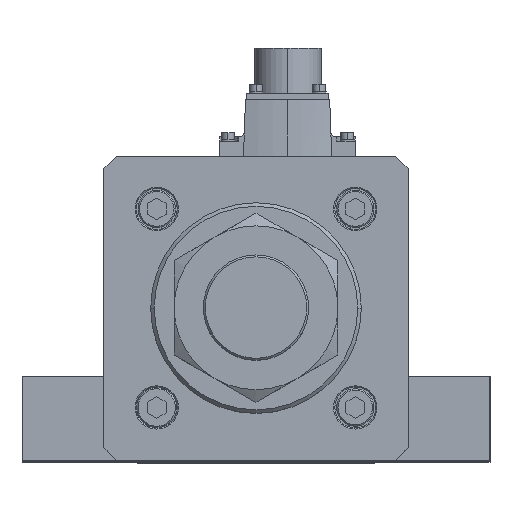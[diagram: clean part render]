
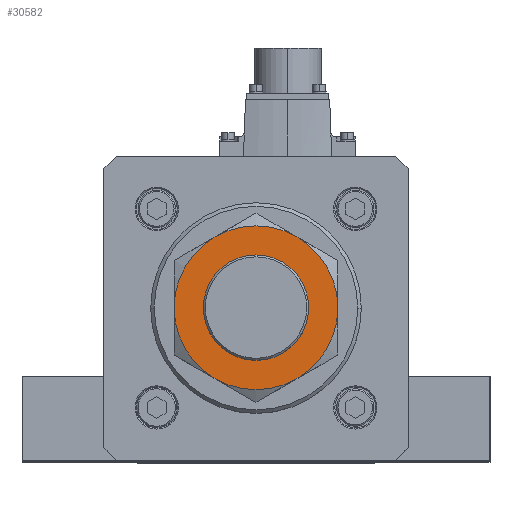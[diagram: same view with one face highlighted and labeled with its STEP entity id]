
A CAD part, top view. The second image highlights one B-rep face of the part: STEP entity #30582.
In plain terms, the highlighted planar face has unit normal (0, 0, 1).
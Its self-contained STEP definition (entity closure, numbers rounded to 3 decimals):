
#303 = AXIS2_PLACEMENT_3D ( 'NONE', #9615, #35732, #18019 ) ;
#704 = ORIENTED_EDGE ( 'NONE', *, *, #33194, .F. ) ;
#1543 = VERTEX_POINT ( 'NONE', #34641 ) ;
#1669 = ORIENTED_EDGE ( 'NONE', *, *, #29332, .F. ) ;
#2403 = EDGE_CURVE ( 'NONE', #10535, #5525, #21497, .T. ) ;
#3769 = CARTESIAN_POINT ( 'NONE',  ( 17.5, 30.311, 27. ) ) ;
#3791 = CARTESIAN_POINT ( 'NONE',  ( -17.5, 30.311, 27. ) ) ;
#4187 = DIRECTION ( 'NONE',  ( 1., 0., 0. ) ) ;
#4662 = DIRECTION ( 'NONE',  ( 0., 0., -1. ) ) ;
#5083 = CIRCLE ( 'NONE', #25607, 35. ) ;
#5118 = EDGE_CURVE ( 'NONE', #1543, #10535, #6959, .T. ) ;
#5525 = VERTEX_POINT ( 'NONE', #3791 ) ;
#6001 = ORIENTED_EDGE ( 'NONE', *, *, #5118, .F. ) ;
#6748 = VERTEX_POINT ( 'NONE', #12571 ) ;
#6959 = CIRCLE ( 'NONE', #14316, 35. ) ;
#7290 = CARTESIAN_POINT ( 'NONE',  ( 0., 0., 27. ) ) ;
#8179 = DIRECTION ( 'NONE',  ( -1., 0., 0. ) ) ;
#9347 = EDGE_CURVE ( 'NONE', #18832, #6748, #15096, .T. ) ;
#9615 = CARTESIAN_POINT ( 'NONE',  ( 0., 0., 27. ) ) ;
#9630 = DIRECTION ( 'NONE',  ( -1., 0., 0. ) ) ;
#10535 = VERTEX_POINT ( 'NONE', #30308 ) ;
#10611 = DIRECTION ( 'NONE',  ( -1., 0., 0. ) ) ;
#11081 = FACE_BOUND ( 'NONE', #13719, .T. ) ;
#11480 = VERTEX_POINT ( 'NONE', #14599 ) ;
#12571 = CARTESIAN_POINT ( 'NONE',  ( 22.5, 0., 27. ) ) ;
#12872 = DIRECTION ( 'NONE',  ( 0., 0., 1. ) ) ;
#12969 = DIRECTION ( 'NONE',  ( 1., 0., 0. ) ) ;
#13509 = AXIS2_PLACEMENT_3D ( 'NONE', #30716, #21387, #12969 ) ;
#13719 = EDGE_LOOP ( 'NONE', ( #17952, #17659 ) ) ;
#13996 = DIRECTION ( 'NONE',  ( 0., 0., 1. ) ) ;
#14316 = AXIS2_PLACEMENT_3D ( 'NONE', #37666, #25929, #8179 ) ;
#14599 = CARTESIAN_POINT ( 'NONE',  ( 17.5, -30.311, 27. ) ) ;
#14936 = AXIS2_PLACEMENT_3D ( 'NONE', #34422, #13996, #22750 ) ;
#15096 = CIRCLE ( 'NONE', #30410, 22.5 ) ;
#15113 = CARTESIAN_POINT ( 'NONE',  ( 35., 0., 27. ) ) ;
#15670 = DIRECTION ( 'NONE',  ( -1., 0., 0. ) ) ;
#16841 = CARTESIAN_POINT ( 'NONE',  ( 0., 0., 27. ) ) ;
#17659 = ORIENTED_EDGE ( 'NONE', *, *, #36227, .F. ) ;
#17952 = ORIENTED_EDGE ( 'NONE', *, *, #9347, .F. ) ;
#18007 = EDGE_CURVE ( 'NONE', #5525, #23648, #31847, .T. ) ;
#18019 = DIRECTION ( 'NONE',  ( -1., 0., 0. ) ) ;
#18832 = VERTEX_POINT ( 'NONE', #27063 ) ;
#19335 = DIRECTION ( 'NONE',  ( -1., 0., 0. ) ) ;
#21159 = ORIENTED_EDGE ( 'NONE', *, *, #2403, .F. ) ;
#21387 = DIRECTION ( 'NONE',  ( 0., 0., 1. ) ) ;
#21497 = CIRCLE ( 'NONE', #303, 35. ) ;
#21547 = DIRECTION ( 'NONE',  ( 0., 0., -1. ) ) ;
#21916 = CARTESIAN_POINT ( 'NONE',  ( 0., 0., 27. ) ) ;
#22693 = CIRCLE ( 'NONE', #35848, 35. ) ;
#22750 = DIRECTION ( 'NONE',  ( 1., 0., 0. ) ) ;
#22887 = AXIS2_PLACEMENT_3D ( 'NONE', #30615, #21547, #9630 ) ;
#23648 = VERTEX_POINT ( 'NONE', #3769 ) ;
#25607 = AXIS2_PLACEMENT_3D ( 'NONE', #7290, #33840, #19335 ) ;
#25929 = DIRECTION ( 'NONE',  ( 0., 0., -1. ) ) ;
#26537 = AXIS2_PLACEMENT_3D ( 'NONE', #16841, #4662, #10611 ) ;
#26819 = FACE_OUTER_BOUND ( 'NONE', #38000, .T. ) ;
#27063 = CARTESIAN_POINT ( 'NONE',  ( -22.5, 0., 27. ) ) ;
#27181 = DIRECTION ( 'NONE',  ( 0., 0., -1. ) ) ;
#29332 = EDGE_CURVE ( 'NONE', #23648, #35217, #37496, .T. ) ;
#30020 = EDGE_CURVE ( 'NONE', #35217, #11480, #5083, .T. ) ;
#30167 = ORIENTED_EDGE ( 'NONE', *, *, #30020, .F. ) ;
#30308 = CARTESIAN_POINT ( 'NONE',  ( -35., 0., 27. ) ) ;
#30410 = AXIS2_PLACEMENT_3D ( 'NONE', #21916, #12872, #4187 ) ;
#30582 = ADVANCED_FACE ( 'NONE', ( #26819, #11081 ), #33787, .T. ) ;
#30615 = CARTESIAN_POINT ( 'NONE',  ( 0., 0., 27. ) ) ;
#30697 = CIRCLE ( 'NONE', #14936, 22.5 ) ;
#30716 = CARTESIAN_POINT ( 'NONE',  ( 0., 0., 27. ) ) ;
#31847 = CIRCLE ( 'NONE', #26537, 35. ) ;
#32837 = ORIENTED_EDGE ( 'NONE', *, *, #18007, .F. ) ;
#33194 = EDGE_CURVE ( 'NONE', #11480, #1543, #22693, .T. ) ;
#33371 = CARTESIAN_POINT ( 'NONE',  ( 0., 0., 27. ) ) ;
#33787 = PLANE ( 'NONE',  #13509 ) ;
#33840 = DIRECTION ( 'NONE',  ( 0., 0., -1. ) ) ;
#34422 = CARTESIAN_POINT ( 'NONE',  ( 0., 0., 27. ) ) ;
#34641 = CARTESIAN_POINT ( 'NONE',  ( -17.5, -30.311, 27. ) ) ;
#35217 = VERTEX_POINT ( 'NONE', #15113 ) ;
#35732 = DIRECTION ( 'NONE',  ( 0., 0., -1. ) ) ;
#35848 = AXIS2_PLACEMENT_3D ( 'NONE', #33371, #27181, #15670 ) ;
#36227 = EDGE_CURVE ( 'NONE', #6748, #18832, #30697, .T. ) ;
#37496 = CIRCLE ( 'NONE', #22887, 35. ) ;
#37666 = CARTESIAN_POINT ( 'NONE',  ( 0., 0., 27. ) ) ;
#38000 = EDGE_LOOP ( 'NONE', ( #30167, #1669, #32837, #21159, #6001, #704 ) ) ;
